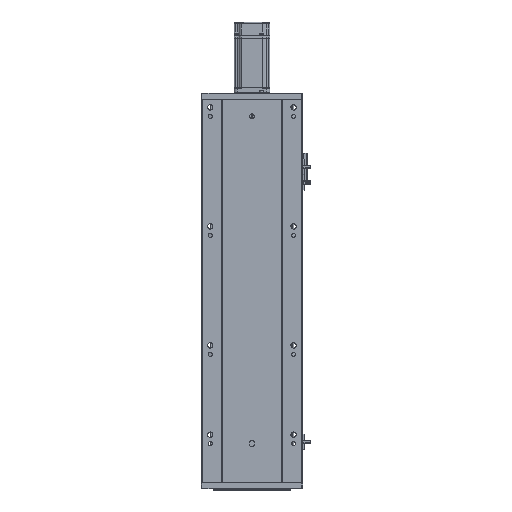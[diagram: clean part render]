
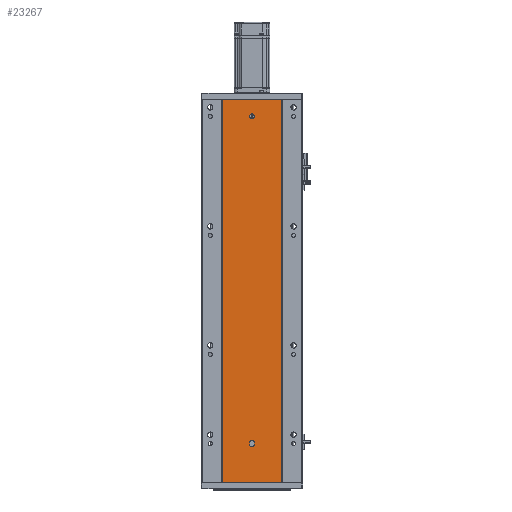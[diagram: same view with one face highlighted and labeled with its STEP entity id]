
A CAD part, front view. The second image highlights one B-rep face of the part: STEP entity #23267.
In plain terms, the highlighted planar face has unit normal (0, -1, 0).
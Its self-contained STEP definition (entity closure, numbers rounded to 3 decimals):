
#354 = CARTESIAN_POINT ( 'NONE',  ( 185.97, 79.476, 214.667 ) ) ;
#572 = CARTESIAN_POINT ( 'NONE',  ( 185.97, 79.476, 429.333 ) ) ;
#642 = VERTEX_POINT ( 'NONE', #37946 ) ;
#1158 = EDGE_CURVE ( 'NONE', #642, #41997, #34146, .T. ) ;
#2096 = CARTESIAN_POINT ( 'NONE',  ( 185.97, 79.476, 0. ) ) ;
#2490 = ORIENTED_EDGE ( 'NONE', *, *, #11623, .F. ) ;
#2734 = AXIS2_PLACEMENT_3D ( 'NONE', #3920, #28592, #64341 ) ;
#3323 = DIRECTION ( 'NONE',  ( 0., 1., 0. ) ) ;
#3920 = CARTESIAN_POINT ( 'NONE',  ( 136.47, 79.476, 64.5 ) ) ;
#4403 = CARTESIAN_POINT ( 'NONE',  ( 136.47, 79.476, 612. ) ) ;
#6858 = DIRECTION ( 'NONE',  ( 0., 0., -1. ) ) ;
#7974 = CIRCLE ( 'NONE', #21292, 4. ) ;
#8874 = EDGE_CURVE ( 'NONE', #9488, #18858, #55156, .T. ) ;
#9088 = VERTEX_POINT ( 'NONE', #26637 ) ;
#9194 = VECTOR ( 'NONE', #56755, 1000. ) ;
#9488 = VERTEX_POINT ( 'NONE', #52473 ) ;
#10549 = DIRECTION ( 'NONE',  ( 0., -1., 0. ) ) ;
#11623 = EDGE_CURVE ( 'NONE', #40482, #33163, #43264, .T. ) ;
#12112 = FACE_OUTER_BOUND ( 'NONE', #53447, .T. ) ;
#12431 = EDGE_CURVE ( 'NONE', #41997, #642, #58101, .T. ) ;
#12504 = ORIENTED_EDGE ( 'NONE', *, *, #19820, .T. ) ;
#12882 = CARTESIAN_POINT ( 'NONE',  ( 86.97, 79.476, 429.333 ) ) ;
#13894 = DIRECTION ( 'NONE',  ( 0., 0., 1. ) ) ;
#14141 = CARTESIAN_POINT ( 'NONE',  ( 140.47, 79.476, 67.5 ) ) ;
#14185 = CARTESIAN_POINT ( 'NONE',  ( 132.47, 79.476, 67.5 ) ) ;
#16315 = CARTESIAN_POINT ( 'NONE',  ( 185.97, 79.476, 644. ) ) ;
#16608 = CARTESIAN_POINT ( 'NONE',  ( 0., 79.476, 644. ) ) ;
#17831 = AXIS2_PLACEMENT_3D ( 'NONE', #24505, #3323, #13894 ) ;
#18180 = CARTESIAN_POINT ( 'NONE',  ( 86.97, 79.476, 214.667 ) ) ;
#18830 = EDGE_CURVE ( 'NONE', #32822, #39061, #63522, .T. ) ;
#18858 = VERTEX_POINT ( 'NONE', #14185 ) ;
#19100 = CARTESIAN_POINT ( 'NONE',  ( 86.97, 79.476, 0. ) ) ;
#19465 = DIRECTION ( 'NONE',  ( 0., 0., 1. ) ) ;
#19530 = ORIENTED_EDGE ( 'NONE', *, *, #12431, .F. ) ;
#19820 = EDGE_CURVE ( 'NONE', #39061, #33163, #21250, .T. ) ;
#19928 = CARTESIAN_POINT ( 'NONE',  ( 136.47, 79.476, 64.5 ) ) ;
#20939 = DIRECTION ( 'NONE',  ( 0., 0., -1. ) ) ;
#21250 = LINE ( 'NONE', #51324, #27506 ) ;
#21292 = AXIS2_PLACEMENT_3D ( 'NONE', #19928, #60670, #40367 ) ;
#22371 = FACE_BOUND ( 'NONE', #31489, .T. ) ;
#22705 = DIRECTION ( 'NONE',  ( 0., 0., -1. ) ) ;
#23267 = ADVANCED_FACE ( 'NONE', ( #35787, #22371, #12112 ), #54466, .F. ) ;
#24505 = CARTESIAN_POINT ( 'NONE',  ( 0., 79.476, 644. ) ) ;
#25184 = AXIS2_PLACEMENT_3D ( 'NONE', #42327, #47599, #22705 ) ;
#25553 = CARTESIAN_POINT ( 'NONE',  ( 136.47, 79.476, 616. ) ) ;
#25818 = EDGE_LOOP ( 'NONE', ( #42365, #42127, #30939, #52805, #25869 ) ) ;
#25869 = ORIENTED_EDGE ( 'NONE', *, *, #48347, .F. ) ;
#26090 = VERTEX_POINT ( 'NONE', #43679 ) ;
#26637 = CARTESIAN_POINT ( 'NONE',  ( 136.47, 79.476, 60.5 ) ) ;
#26720 = DIRECTION ( 'NONE',  ( 1., 0., 0. ) ) ;
#27168 = CARTESIAN_POINT ( 'NONE',  ( 132.47, 79.476, 67.5 ) ) ;
#27506 = VECTOR ( 'NONE', #36545, 1000. ) ;
#28065 = CARTESIAN_POINT ( 'NONE',  ( 140.47, 79.476, 64.5 ) ) ;
#28504 = CARTESIAN_POINT ( 'NONE',  ( 86.97, 79.476, 0. ) ) ;
#28592 = DIRECTION ( 'NONE',  ( 0., -1., 0. ) ) ;
#29852 = CARTESIAN_POINT ( 'NONE',  ( 185.97, 79.476, 0. ) ) ;
#30610 = VECTOR ( 'NONE', #19465, 1000. ) ;
#30939 = ORIENTED_EDGE ( 'NONE', *, *, #8874, .F. ) ;
#31489 = EDGE_LOOP ( 'NONE', ( #19530, #62699 ) ) ;
#32383 = AXIS2_PLACEMENT_3D ( 'NONE', #25553, #10549, #20939 ) ;
#32749 = EDGE_CURVE ( 'NONE', #26090, #9088, #42765, .T. ) ;
#32822 = VERTEX_POINT ( 'NONE', #38749 ) ;
#33163 = VERTEX_POINT ( 'NONE', #2096 ) ;
#34146 = CIRCLE ( 'NONE', #32383, 4. ) ;
#35787 = FACE_BOUND ( 'NONE', #25818, .T. ) ;
#36545 = DIRECTION ( 'NONE',  ( 1., 0., 0. ) ) ;
#37946 = CARTESIAN_POINT ( 'NONE',  ( 136.47, 79.476, 620. ) ) ;
#38749 = CARTESIAN_POINT ( 'NONE',  ( 86.97, 79.476, 644. ) ) ;
#39061 = VERTEX_POINT ( 'NONE', #19100 ) ;
#39998 = CARTESIAN_POINT ( 'NONE',  ( 185.97, 79.476, 644. ) ) ;
#40305 = AXIS2_PLACEMENT_3D ( 'NONE', #58231, #62643, #6858 ) ;
#40367 = DIRECTION ( 'NONE',  ( 0., 0., -1. ) ) ;
#40482 = VERTEX_POINT ( 'NONE', #16315 ) ;
#41997 = VERTEX_POINT ( 'NONE', #4403 ) ;
#42127 = ORIENTED_EDGE ( 'NONE', *, *, #55293, .F. ) ;
#42289 = ORIENTED_EDGE ( 'NONE', *, *, #45277, .F. ) ;
#42327 = CARTESIAN_POINT ( 'NONE',  ( 136.47, 79.476, 616. ) ) ;
#42365 = ORIENTED_EDGE ( 'NONE', *, *, #32749, .F. ) ;
#42765 = CIRCLE ( 'NONE', #2734, 4. ) ;
#43264 = B_SPLINE_CURVE_WITH_KNOTS ( 'NONE', 3,
 ( #39998, #572, #354, #29852 ),
 .UNSPECIFIED., .F., .F.,
 ( 4, 4 ),
 ( 0., 1. ),
 .UNSPECIFIED. ) ;
#43679 = CARTESIAN_POINT ( 'NONE',  ( 132.47, 79.476, 64.5 ) ) ;
#44767 = VECTOR ( 'NONE', #26720, 1000. ) ;
#45277 = EDGE_CURVE ( 'NONE', #32822, #40482, #58939, .T. ) ;
#46162 = ORIENTED_EDGE ( 'NONE', *, *, #18830, .T. ) ;
#47048 = LINE ( 'NONE', #27168, #9194 ) ;
#47599 = DIRECTION ( 'NONE',  ( 0., -1., 0. ) ) ;
#47982 = VERTEX_POINT ( 'NONE', #28065 ) ;
#48347 = EDGE_CURVE ( 'NONE', #9088, #47982, #7974, .T. ) ;
#48787 = LINE ( 'NONE', #14141, #30610 ) ;
#49829 = EDGE_CURVE ( 'NONE', #47982, #9488, #48787, .T. ) ;
#51324 = CARTESIAN_POINT ( 'NONE',  ( 0., 79.476, 0. ) ) ;
#52473 = CARTESIAN_POINT ( 'NONE',  ( 140.47, 79.476, 67.5 ) ) ;
#52805 = ORIENTED_EDGE ( 'NONE', *, *, #49829, .F. ) ;
#53447 = EDGE_LOOP ( 'NONE', ( #12504, #2490, #42289, #46162 ) ) ;
#54466 = PLANE ( 'NONE',  #17831 ) ;
#55156 = CIRCLE ( 'NONE', #40305, 4. ) ;
#55293 = EDGE_CURVE ( 'NONE', #18858, #26090, #47048, .T. ) ;
#56755 = DIRECTION ( 'NONE',  ( 0., 0., -1. ) ) ;
#58101 = CIRCLE ( 'NONE', #25184, 4. ) ;
#58231 = CARTESIAN_POINT ( 'NONE',  ( 136.47, 79.476, 67.5 ) ) ;
#58731 = CARTESIAN_POINT ( 'NONE',  ( 86.97, 79.476, 644. ) ) ;
#58939 = LINE ( 'NONE', #16608, #44767 ) ;
#60670 = DIRECTION ( 'NONE',  ( 0., -1., 0. ) ) ;
#62643 = DIRECTION ( 'NONE',  ( 0., -1., 0. ) ) ;
#62699 = ORIENTED_EDGE ( 'NONE', *, *, #1158, .F. ) ;
#63522 = B_SPLINE_CURVE_WITH_KNOTS ( 'NONE', 3,
 ( #58731, #12882, #18180, #28504 ),
 .UNSPECIFIED., .F., .F.,
 ( 4, 4 ),
 ( 0., 1. ),
 .UNSPECIFIED. ) ;
#64341 = DIRECTION ( 'NONE',  ( 0., 0., -1. ) ) ;
